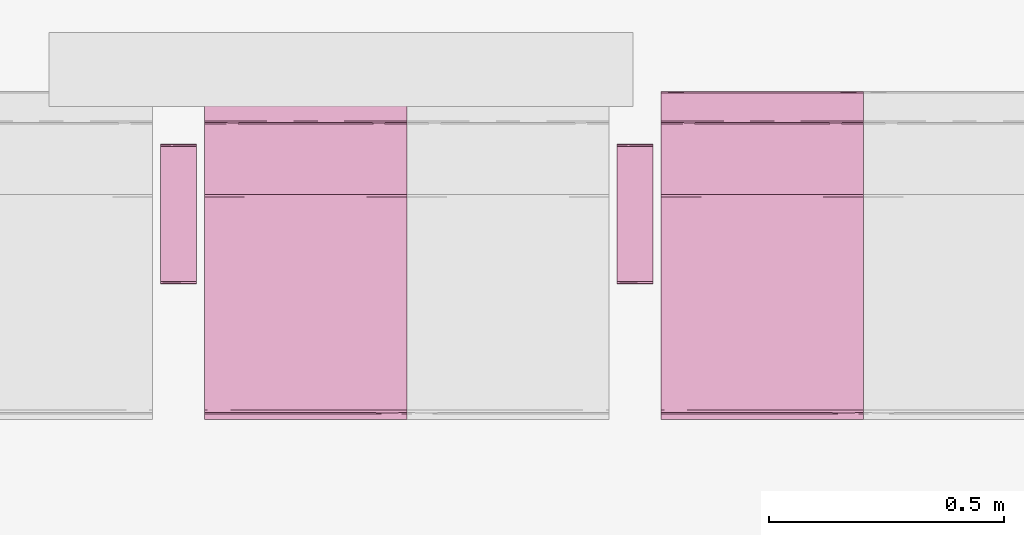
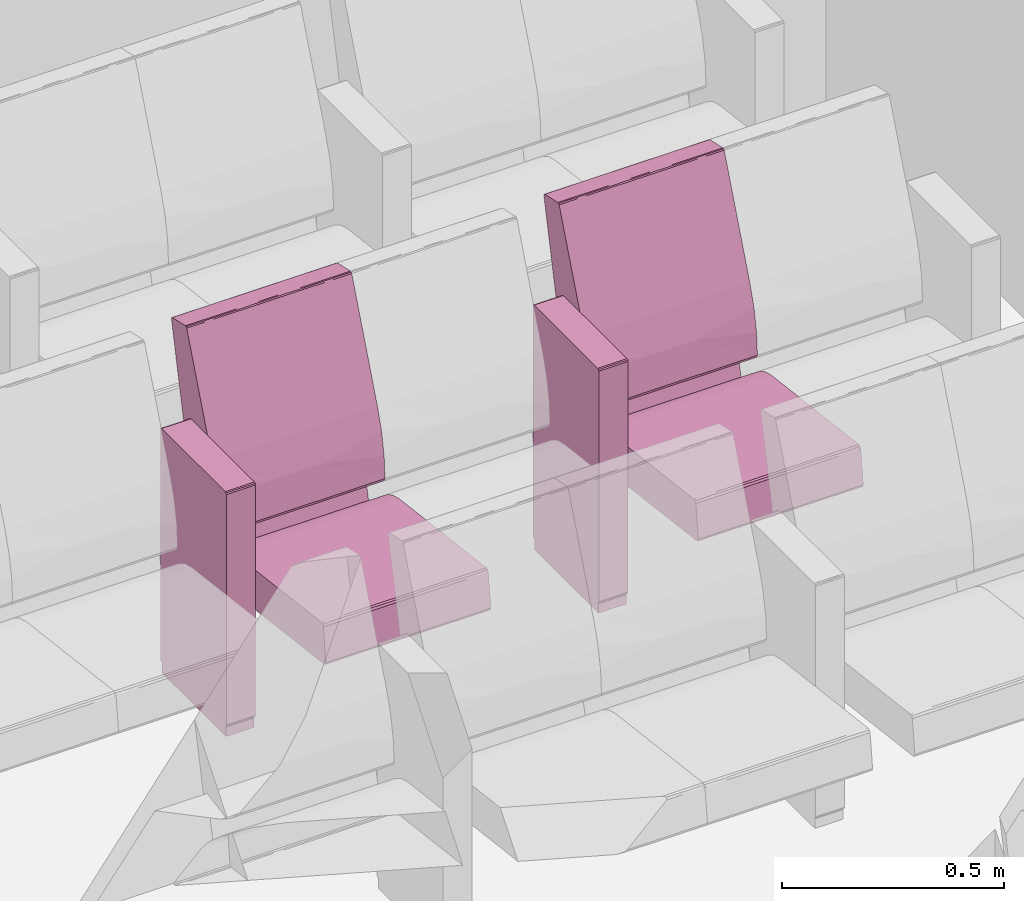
# One storey, part 138 of 155: 2 furnishings.
"""IFC2X3 building model written with IfcOpenShell, lengths in metres."""

import ifcopenshell
import ifcopenshell.guid

model = None  # the IFC model being written
_history = None  # IfcOwnerHistory: only IFC2X3 demands one
_inside = {}  # id of a spatial element -> (the spatial element, [elements in it])
_under = {}  # id of a project, library or spatial element -> (it, [spatial elements below it])
_declared = {}  # id of a project -> (the project, [libraries it declares])
_typed = {}  # id of a type object -> (the type object, [elements of that type])
_made_of = {}  # id of a material, layer set ... -> (it, [elements and type objects made of it])


def new_model(schema):
    """Start an empty IFC model of exactly this schema.

    Asked for "IFC4X3", IfcOpenShell would pick the latest addendum, in which some entities
    have other attributes; the version numbers below select the first issue.
    IFC2X3 requires an IfcOwnerHistory on every rooted entity: one is made here for all.
    """
    global model, _history
    if schema == "IFC4X3":
        model = ifcopenshell.file(schema_version=(4, 3, 0, 0))
    else:
        model = ifcopenshell.file(schema=schema)
    _inside.clear()
    _under.clear()
    _declared.clear()
    _typed.clear()
    _made_of.clear()
    _history = None
    if model.schema == "IFC2X3":
        org = make("IfcOrganization", Name="unknown")
        user = make(
            "IfcPersonAndOrganization",
            ThePerson=make("IfcPerson", FamilyName="unknown"),
            TheOrganization=org,
        )
        app = make(
            "IfcApplication",
            ApplicationDeveloper=org,
            Version="unknown",
            ApplicationFullName="unknown",
            ApplicationIdentifier="unknown",
        )
        _history = make(
            "IfcOwnerHistory",
            OwningUser=user,
            OwningApplication=app,
            ChangeAction="ADDED",
            CreationDate=0,
        )
    return model


def make(cls, **values):
    """One entity of the class cls with the attributes given. An attribute that is None is left unset."""
    return model.create_entity(
        cls, **{name: value for name, value in values.items() if value is not None}
    )


def entity(cls, *values):
    """Any entity or typed value of the class cls, its attributes in the order of the schema. None: left unset."""
    e = model.create_entity(cls)
    for i, value in enumerate(values):
        if value is not None:
            e[i] = value
    return e


def rooted(cls, **values):
    """An entity with a GlobalId (a new one), such as an element, a storey or a relation."""
    return make(cls, GlobalId=ifcopenshell.guid.new(), OwnerHistory=_history, **values)


def si_unit(unit_type, name, prefix=None):
    """IfcSIUnit, for example si_unit("LENGTHUNIT", "METRE", prefix="MILLI")."""
    return make("IfcSIUnit", UnitType=unit_type, Prefix=prefix, Name=name)


def converted_unit(unit_type, name, factor, base, dimensions=None, offset=None):
    """IfcConversionBasedUnit, such as the inch: factor (a typed value) times the base unit."""
    return make(
        "IfcConversionBasedUnit"
        if offset is None
        else "IfcConversionBasedUnitWithOffset",
        ConversionOffset=offset,
        Dimensions=None
        if dimensions is None
        else entity("IfcDimensionalExponents", *dimensions),
        UnitType=unit_type,
        Name=name,
        ConversionFactor=make(
            "IfcMeasureWithUnit", ValueComponent=factor, UnitComponent=base
        ),
    )


def derived_unit(unit_type, elements):
    """IfcDerivedUnit: a product of units, each with its exponent."""
    return make(
        "IfcDerivedUnit",
        Elements=[
            make("IfcDerivedUnitElement", Unit=unit, Exponent=power)
            for unit, power in elements
        ],
        UnitType=unit_type,
    )


def assignment(units):
    """IfcUnitAssignment: the units of a project."""
    return None if units is None else make("IfcUnitAssignment", Units=units)


def point(xyz):
    """IfcCartesianPoint."""
    return None if xyz is None else make("IfcCartesianPoint", Coordinates=xyz)


def direction(xyz):
    """IfcDirection."""
    return None if xyz is None else make("IfcDirection", DirectionRatios=xyz)


def frame(location, z_axis=None, x_axis=None):
    """IfcAxis2Placement3D, a coordinate frame: its origin and axes. An axis left out is left unset."""
    return make(
        "IfcAxis2Placement3D",
        Location=point(location),
        Axis=direction(z_axis),
        RefDirection=direction(x_axis),
    )


def origin():
    """The frame at (0, 0, 0) with its axes left unset."""
    return frame((0.0, 0.0, 0.0))


def place(relative_to, where):
    """IfcLocalPlacement: puts the frame where relative to a parent placement (None: the world)."""
    return make(
        "IfcLocalPlacement", PlacementRelTo=relative_to, RelativePlacement=where
    )


def context(
    kind, dimensions, precision=None, world=None, true_north=None, identifier=None
):
    """IfcGeometricRepresentationContext, for example the 3D "Model" context."""
    return make(
        "IfcGeometricRepresentationContext",
        ContextIdentifier=identifier,
        ContextType=kind,
        CoordinateSpaceDimension=dimensions,
        Precision=precision,
        WorldCoordinateSystem=world,
        TrueNorth=true_north,
    )


def subcontext(parent, identifier, kind, view, scale=None):
    """IfcGeometricRepresentationSubContext, for example "Body" below "Model"."""
    return make(
        "IfcGeometricRepresentationSubContext",
        ContextIdentifier=identifier,
        ContextType=kind,
        ParentContext=parent,
        TargetScale=scale,
        TargetView=view,
    )


def project(units=None, contexts=None):
    """IfcProject with its units and contexts."""
    return rooted(
        "IfcProject",
        Name="project",
        RepresentationContexts=contexts,
        UnitsInContext=assignment(units),
    )


def spatial(cls, under=None, at=None, **own):
    """A site, building, storey or space (cls), placed at a placement, below another one or the project."""
    s = rooted(cls, ObjectPlacement=at, **own)
    if under is not None:
        _under.setdefault(under.id(), (under, []))[1].append(s)
    return s


def faces_of(points, faces, orient=None, outer=None):
    """IfcFace entities. A face is a list of loops; a loop is a list of indices into points, from 0.

    orient and outer hold one flag for each loop. By default every Orientation is true, the
    first loop of a face is its IfcFaceOuterBound and the others are IfcFaceBound.
    """
    made = []
    for i, loops in enumerate(faces):
        bounds = []
        for j, loop in enumerate(loops):
            is_outer = j == 0 if outer is None else outer[i][j]
            bounds.append(
                make(
                    "IfcFaceOuterBound" if is_outer else "IfcFaceBound",
                    Bound=make("IfcPolyLoop", Polygon=[points[k] for k in loop]),
                    Orientation=True if orient is None else orient[i][j],
                )
            )
        made.append(make("IfcFace", Bounds=bounds))
    return made


def faceted_brep(points, faces, orient=None, outer=None, voids=None):
    """IfcFacetedBrep: a solid bounded by flat faces; with voids (closed shells), ...WithVoids."""
    shared = [point(p) for p in points]
    hull = make("IfcClosedShell", CfsFaces=faces_of(shared, faces, orient, outer))
    if voids is None:
        return make("IfcFacetedBrep", Outer=hull)
    return make(
        "IfcFacetedBrepWithVoids",
        Outer=hull,
        Voids=[
            make(cls, CfsFaces=faces_of(shared, fs, o, b)) for cls, fs, o, b in voids
        ],
    )


def shape(context_of_items, identifier, shape_type, items):
    """IfcShapeRepresentation: the items that make up one representation, for example the "Body"."""
    return make(
        "IfcShapeRepresentation",
        ContextOfItems=context_of_items,
        RepresentationIdentifier=identifier,
        RepresentationType=shape_type,
        Items=items,
    )


def source(mapping_origin, context_of_items, identifier, shape_type, items):
    """IfcRepresentationMap: a shape defined once, which mapped items show again and again."""
    return make(
        "IfcRepresentationMap",
        MappingOrigin=mapping_origin,
        MappedRepresentation=shape(context_of_items, identifier, shape_type, items),
    )


def transform(
    local_origin,
    x_axis=None,
    y_axis=None,
    z_axis=None,
    scale=None,
    scale2=None,
    scale3=None,
    uniform=True,
):
    """IfcCartesianTransformationOperator3D, or its non-uniform kind. x_axis, y_axis, z_axis: its Axis1, 2, 3."""
    if uniform:
        return make(
            "IfcCartesianTransformationOperator3D",
            Axis1=direction(x_axis),
            Axis2=direction(y_axis),
            LocalOrigin=point(local_origin),
            Scale=scale,
            Axis3=direction(z_axis),
        )
    return make(
        "IfcCartesianTransformationOperator3DnonUniform",
        Axis1=direction(x_axis),
        Axis2=direction(y_axis),
        LocalOrigin=point(local_origin),
        Scale=scale,
        Axis3=direction(z_axis),
        Scale2=scale2,
        Scale3=scale3,
    )


def mapped(mapping_source, mapping_target):
    """IfcMappedItem: shows the shape of a source again, moved by a transform."""
    return make(
        "IfcMappedItem", MappingSource=mapping_source, MappingTarget=mapping_target
    )


def material(Name=None, Category=None):
    """IfcMaterial."""
    return make("IfcMaterial", Name=Name, Category=Category)


def material_list(materials):
    """IfcMaterialList."""
    return make("IfcMaterialList", Materials=materials)


def made_of(thing, what):
    """Note that an element or type object is made of a material, layer set ...; save() writes the relation."""
    if what is not None:
        _made_of.setdefault(what.id(), (what, []))[1].append(thing)
    return thing


def type_object(cls, material=None, **own):
    """A type object (cls), such as IfcWallType, which elements share."""
    return made_of(rooted(cls, **own), material)


def type_shapes(of_type, sources):
    """Give a type object the sources (RepresentationMaps) that its elements show as mapped items."""
    of_type.RepresentationMaps = sources


def element(
    cls,
    number,
    at=None,
    inside=None,
    cuts=None,
    type_object=None,
    material=None,
    context=None,
    identifier="Body",
    shape_type=None,
    held_by="IfcProductDefinitionShape",
    body=None,
    shapes=None,
    **own,
):
    """One element of the class cls, such as IfcWall. Its Tag is "e" and its number.

    at: its placement. inside: the storey or other place that contains it. cuts: it is an
    opening in that element (IfcRelVoidsElement). A single representation is given by context,
    identifier, shape_type and body (its items); several are given by shapes. held_by: the class
    of the entity that holds the representations. save() writes the other relations.
    """
    e = rooted(cls, Tag="e%d" % number, ObjectPlacement=at, **own)
    if body is not None:
        shapes = [shape(context, identifier, shape_type, body)]
    if shapes is not None:
        e.Representation = make(held_by, Representations=shapes)
    if inside is not None:
        _inside.setdefault(inside.id(), (inside, []))[1].append(e)
    if cuts is not None:
        rooted(
            "IfcRelVoidsElement", RelatingBuildingElement=cuts, RelatedOpeningElement=e
        )
    if type_object is not None:
        _typed.setdefault(type_object.id(), (type_object, []))[1].append(e)
    return made_of(e, material)


def aggregate(whole, parts):
    """IfcRelAggregates: a whole, such as a stair, and the parts it consists of."""
    return rooted("IfcRelAggregates", RelatingObject=whole, RelatedObjects=parts)


def save(model, path):
    """Write the relations noted so far, then the file.

    IfcRelAggregates (storeys below a building ...), IfcRelContainedInSpatialStructure (elements
    in a storey), IfcRelDefinesByType, IfcRelAssociatesMaterial and IfcRelDeclares: one each for
    every whole, place, type object, material and project.
    """
    for whole, parts in _under.values():
        aggregate(whole, parts)
    for where, things in _inside.values():
        rooted(
            "IfcRelContainedInSpatialStructure",
            RelatedElements=things,
            RelatingStructure=where,
        )
    for kind, things in _typed.values():
        rooted("IfcRelDefinesByType", RelatedObjects=things, RelatingType=kind)
    for what, things in _made_of.values():
        rooted("IfcRelAssociatesMaterial", RelatedObjects=things, RelatingMaterial=what)
    for by, libraries in _declared.values():
        rooted("IfcRelDeclares", RelatingContext=by, RelatedDefinitions=libraries)
    model.write(path)


model = new_model("IFC2X3")

# Units and contexts
model_context = context("Model", 3, precision=1e-05, world=origin(), true_north=direction((6.12303176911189e-17, 1.0)))
body_context = subcontext(model_context, "Body", "Model", "MODEL_VIEW")
ifc_project = project(units=[si_unit("LENGTHUNIT", "METRE"), si_unit("AREAUNIT", "SQUARE_METRE"), si_unit("VOLUMEUNIT", "CUBIC_METRE"), converted_unit("PLANEANGLEUNIT", "DEGREE", entity("IfcRatioMeasure", 0.0174532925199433), si_unit("PLANEANGLEUNIT", "RADIAN"), dimensions=[0, 0, 0, 0, 0, 0, 0]), si_unit("MASSUNIT", "GRAM", prefix="KILO"), derived_unit("MASSDENSITYUNIT", [(si_unit("MASSUNIT", "GRAM", prefix="KILO"), 1), (si_unit("LENGTHUNIT", "METRE"), -3)]), si_unit("TIMEUNIT", "SECOND"), si_unit("FREQUENCYUNIT", "HERTZ"), si_unit("THERMODYNAMICTEMPERATUREUNIT", "DEGREE_CELSIUS"), derived_unit("THERMALTRANSMITTANCEUNIT", [(si_unit("MASSUNIT", "GRAM", prefix="KILO"), 1), (si_unit("THERMODYNAMICTEMPERATUREUNIT", "KELVIN"), -1), (si_unit("TIMEUNIT", "SECOND"), -3)]), derived_unit("VOLUMETRICFLOWRATEUNIT", [(si_unit("LENGTHUNIT", "METRE"), 3), (si_unit("TIMEUNIT", "SECOND"), -1)]), si_unit("ELECTRICCURRENTUNIT", "AMPERE"), si_unit("ELECTRICVOLTAGEUNIT", "VOLT"), si_unit("POWERUNIT", "WATT"), si_unit("FORCEUNIT", "NEWTON", prefix="KILO"), si_unit("ILLUMINANCEUNIT", "LUX"), si_unit("LUMINOUSFLUXUNIT", "LUMEN"), si_unit("LUMINOUSINTENSITYUNIT", "CANDELA"), derived_unit("USERDEFINED", [(si_unit("MASSUNIT", "GRAM", prefix="KILO"), -1), (si_unit("LENGTHUNIT", "METRE"), -2), (si_unit("TIMEUNIT", "SECOND"), 3), (si_unit("LUMINOUSFLUXUNIT", "LUMEN"), 1)]), derived_unit("LINEARVELOCITYUNIT", [(si_unit("LENGTHUNIT", "METRE"), 1), (si_unit("TIMEUNIT", "SECOND"), -1)]), si_unit("PRESSUREUNIT", "PASCAL"), derived_unit("USERDEFINED", [(si_unit("LENGTHUNIT", "METRE"), -2), (si_unit("MASSUNIT", "GRAM", prefix="KILO"), 1), (si_unit("TIMEUNIT", "SECOND"), -2)])], contexts=[model_context])

# Site, building, storey, space
site_placement = place(None, frame((26.9889013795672, -17.5624287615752, 0.0)))
site = spatial("IfcSite", under=ifc_project, at=site_placement, Name="Default", CompositionType="ELEMENT")
building_placement = place(site_placement, origin())
building = spatial("IfcBuilding", under=site, at=building_placement, Name="C. C. L. Monsenhor Antônio Sampaio", CompositionType="ELEMENT")
storey_placement = place(building_placement, frame((0.0, 0.0, 1.19999999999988)))
storey = spatial("IfcBuildingStorey", under=building, at=storey_placement, Name="Nível 1.2", CompositionType="ELEMENT", Elevation=1.19999999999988)
space_placement = place(storey_placement, origin())
space = spatial("IfcSpace", under=storey, at=space_placement, Name="94", CompositionType="ELEMENT", InteriorOrExteriorSpace="INTERNAL")

# Furnishings
ifc_material_1 = material(Name="V9 - V9 - Ecopelle_672_658")
ifc_material_2 = material(Name="V9 - V9 - RAL_9006_Grigio")
ifc_material_list_1 = material_list([ifc_material_1, ifc_material_2])
ifc_material_list_2 = material_list([ifc_material_1, ifc_material_2])
furniture_type = type_object("IfcFurnitureType", Name="Cadeira auditório", material=ifc_material_list_2)
shared_shape = source(origin(), body_context, "Body", "Brep", [
    faceted_brep([(0.405536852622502, 0.156348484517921, 0.339809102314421), (0.410560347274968, 0.131924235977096, 0.34246450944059), (0.405536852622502, 0.1075, 0.339809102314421), (0.405536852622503, 0.0537499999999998, 0.339809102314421), (0.410597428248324, 0.084060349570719, 0.342506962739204), (0.41079981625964, 0.0179166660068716, 0.342749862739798), (0.405536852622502, 0.215, 0.339809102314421), (0.410248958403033, 0.173608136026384, 0.342130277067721), (0.412515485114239, 0.185674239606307, 0.348529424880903), (0.412515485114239, 0.143333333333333, 0.348529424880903), (0.410560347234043, -0.131924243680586, 0.342464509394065), (0.405536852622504, -0.156348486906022, 0.33980910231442), (0.405536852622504, -0.1075, 0.33980910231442), (0.405536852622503, 0.0, 0.33980910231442), (0.41251548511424, 0.0, 0.348529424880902), (0.411170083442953, -0.0341365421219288, 0.343251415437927), (0.41059742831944, -0.0840603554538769, 0.342506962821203), (0.41251548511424, -0.143333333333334, 0.348529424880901), (0.412515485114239, 0.0358333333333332, 0.348529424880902), (0.412515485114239, 0.0716666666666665, 0.348529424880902), (0.405536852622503, -0.0537500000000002, 0.33980910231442), (0.412515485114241, -0.185674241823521, 0.348529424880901), (0.410799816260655, -0.215, 0.342749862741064), (0.410248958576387, -0.173608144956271, 0.342130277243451), (0.410799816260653, 0.215, 0.342749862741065), (0.412515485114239, 0.215, 0.348529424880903), (0.412515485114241, -0.215, 0.348529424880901), (0.41251548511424, -0.0716666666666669, 0.348529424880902), (0.405536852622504, -0.215, 0.33980910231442), (-0.0557900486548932, -0.215, 0.28268145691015), (-0.055790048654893, -0.168631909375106, 0.282681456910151), (-0.0557900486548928, -0.138065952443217, 0.282681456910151), (-0.0557900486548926, -0.107499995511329, 0.282681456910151), (-0.0557900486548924, -0.0806249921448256, 0.282681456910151), (-0.0557900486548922, -0.0537499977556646, 0.282681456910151), (-0.0557900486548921, -0.0268750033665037, 0.282681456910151), (-0.0557900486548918, 0.0, 0.28268145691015), (-0.0557900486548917, 0.0268749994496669, 0.282681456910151), (-0.0557900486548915, 0.0537499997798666, 0.282681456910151), (-0.0557900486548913, 0.0806250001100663, 0.282681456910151), (-0.0557900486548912, 0.107499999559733, 0.282681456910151), (-0.055790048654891, 0.134374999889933, 0.282681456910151), (-0.0557900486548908, 0.161250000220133, 0.282681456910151), (-0.0557900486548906, 0.1881249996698, 0.282681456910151), (-0.0557900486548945, 0.215, 0.28268145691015), (-0.0594787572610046, -0.0152829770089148, 0.283700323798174), (-0.0613666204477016, 0.0, 0.287029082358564), (-0.0594787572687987, 0.0179017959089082, 0.283700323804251), (-0.0613666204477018, 0.191815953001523, 0.287029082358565), (-0.0613666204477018, 0.215, 0.287029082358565), (-0.0594787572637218, 0.215, 0.283700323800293), (-0.0593340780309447, 0.0671874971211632, 0.283591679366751), (-0.0613666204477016, 0.030565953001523, 0.287029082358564), (-0.0594787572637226, -0.215, 0.283700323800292), (-0.0593337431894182, -0.184174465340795, 0.283591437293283), (-0.0613666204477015, -0.122263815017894, 0.287029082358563), (-0.0613666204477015, -0.0916978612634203, 0.287029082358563), (-0.0613666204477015, -0.0611319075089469, 0.287029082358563), (-0.0593023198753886, -0.0940625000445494, 0.283568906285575), (-0.059382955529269, 0.118123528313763, 0.28362747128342), (-0.0613666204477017, 0.122263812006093, 0.287029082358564), (-0.0597338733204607, 0.147039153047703, 0.283913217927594), (-0.0613666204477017, 0.168631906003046, 0.287029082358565), (-0.0592501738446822, 0.180223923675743, 0.283532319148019), (-0.0588783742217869, 0.0926899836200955, 0.283298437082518), (-0.0613666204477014, -0.215, 0.287029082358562), (-0.0613666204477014, -0.168631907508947, 0.287029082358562), (-0.0592576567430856, -0.123736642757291, 0.283537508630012), (-0.0594787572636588, -0.153348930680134, 0.283700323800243), (-0.0613666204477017, 0.0916978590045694, 0.287029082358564), (-0.0613666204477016, -0.0305659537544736, 0.287029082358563), (-0.059645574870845, -0.045848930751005, 0.283836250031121), (-0.0613666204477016, 0.0611319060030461, 0.287029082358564), (-0.069340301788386, -0.215, 0.351419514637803), (-0.0693403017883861, -0.143333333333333, 0.351419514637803), (-0.0693403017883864, -0.0716666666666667, 0.351419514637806), (-0.0693403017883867, 0.0, 0.351419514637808), (-0.069340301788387, 0.0716666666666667, 0.351419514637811), (-0.0693403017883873, 0.143333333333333, 0.351419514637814), (-0.0693403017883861, 0.215, 0.351419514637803), (-0.0597085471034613, 0.0, 0.37476954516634), (-0.0645543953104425, 0.112272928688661, 0.369803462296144), (-0.0653387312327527, 0.0126787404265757, 0.368680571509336), (-0.0681665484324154, -0.0888707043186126, 0.36292533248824), (-0.0655136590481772, -0.10440004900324, 0.368411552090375), (-0.0694879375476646, 0.0590582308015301, 0.356377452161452), (-0.0695056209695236, -0.125492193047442, 0.356093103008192), (-0.0597085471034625, -0.110316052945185, 0.374769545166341), (-0.0690003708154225, 0.132942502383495, 0.359900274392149), (-0.0672851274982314, 0.108066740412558, 0.365148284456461), (-0.0676206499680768, 0.215, 0.364371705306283), (-0.0686241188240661, 0.215, 0.356813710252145), (-0.0686241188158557, -0.214999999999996, 0.356813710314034), (-0.0686999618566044, 0.0358333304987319, 0.36116674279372), (-0.0694502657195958, -0.0358333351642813, 0.356863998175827), (-0.0676206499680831, -0.214999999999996, 0.364371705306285), (-0.0636645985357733, -0.214999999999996, 0.369570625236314), (-0.0597085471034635, -0.214999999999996, 0.374769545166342), (-0.0597085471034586, 0.215, 0.374769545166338), (-0.0636645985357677, 0.215, 0.36957062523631), (-0.0597085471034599, 0.110316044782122, 0.374769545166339), (-0.0324117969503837, 0.215, 0.390639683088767), (-0.0324117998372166, 0.0436847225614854, 0.39063968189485), (-0.0018793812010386, 0.215, 0.398686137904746), (-0.041847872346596, -0.0856576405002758, 0.386239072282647), (-0.0324117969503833, -0.215, 0.390639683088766), (-0.00187938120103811, -0.215, 0.398686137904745), (-0.00187938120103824, -0.102488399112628, 0.398686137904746), (-0.0219042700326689, -0.0570631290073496, 0.394412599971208), (-0.00187938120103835, 0.0, 0.398686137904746), (0.392202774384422, 0.215, 0.447486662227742), (0.392202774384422, -0.215, 0.447486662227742), (0.392202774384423, -0.156349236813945, 0.447486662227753), (0.392202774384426, -0.107499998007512, 0.447486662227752), (0.392202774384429, -0.0537500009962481, 0.44748666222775), (0.392202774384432, 0.0, 0.447486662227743), (0.392202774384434, 0.0537499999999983, 0.447486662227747), (0.392202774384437, 0.107499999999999, 0.447486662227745), (0.392202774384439, 0.156349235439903, 0.447486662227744), (0.398104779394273, -0.131924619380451, 0.445856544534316), (0.401125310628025, -0.0976984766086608, 0.440530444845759), (0.397860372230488, -0.0827732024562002, 0.446039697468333), (0.401125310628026, -0.215000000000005, 0.440530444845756), (0.401125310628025, -0.156349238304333, 0.440530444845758), (0.397373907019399, -0.173462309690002, 0.446363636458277), (0.398104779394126, -0.215000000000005, 0.445856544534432), (0.397860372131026, 0.0827731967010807, 0.446039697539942), (0.398104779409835, 0.131924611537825, 0.445856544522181), (0.398104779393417, -0.0237489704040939, 0.445856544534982), (0.398104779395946, 0.0268749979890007, 0.445856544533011), (0.401125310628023, 0.0488492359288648, 0.440530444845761), (0.401125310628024, -0.0488492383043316, 0.440530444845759), (0.398774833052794, 0.173462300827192, 0.445271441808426), (0.401125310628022, 0.097698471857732, 0.440530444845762), (0.401125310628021, 0.215, 0.440530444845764), (0.39810477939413, 0.215, 0.445856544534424), (0.401125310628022, 0.156349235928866, 0.440530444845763), (0.401125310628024, 0.0, 0.44053044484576)], [[[0, 1, 2]], [[3, 4, 5]], [[6, 7, 0]], [[7, 8, 9]], [[10, 11, 12]], [[3, 5, 13]], [[14, 15, 5]], [[16, 17, 10]], [[9, 1, 7]], [[18, 5, 4]], [[4, 9, 19, 18]], [[9, 4, 1]], [[2, 1, 4]], [[13, 15, 20]], [[21, 22, 23]], [[5, 18, 14]], [[24, 25, 8]], [[22, 21, 26]], [[24, 7, 6]], [[23, 11, 10]], [[20, 15, 16]], [[3, 2, 4]], [[14, 27, 15]], [[5, 15, 13]], [[27, 17, 16]], [[10, 12, 16]], [[21, 23, 17]], [[20, 16, 12]], [[15, 27, 16]], [[7, 1, 0]], [[28, 11, 23]], [[8, 7, 24]], [[23, 10, 17]], [[28, 23, 22]], [[28, 29, 30, 31, 32, 33, 34, 35, 36, 37, 38, 39, 40, 41, 42, 43, 44, 6, 0, 2, 3, 13, 20, 12, 11]], [[45, 46, 47]], [[48, 49, 50]], [[51, 47, 52]], [[29, 53, 54]], [[55, 56, 57, 58]], [[59, 60, 61]], [[61, 62, 63]], [[51, 64, 39]], [[65, 66, 54]], [[31, 67, 32]], [[45, 47, 38, 37, 36, 35]], [[68, 31, 30]], [[43, 50, 44]], [[63, 42, 61]], [[48, 50, 63]], [[64, 69, 59]], [[68, 54, 66]], [[63, 62, 48]], [[50, 43, 63]], [[67, 55, 58]], [[61, 42, 41]], [[45, 70, 46]], [[55, 68, 66]], [[71, 33, 58]], [[71, 57, 70]], [[41, 40, 59]], [[60, 62, 61]], [[71, 35, 34, 33]], [[35, 71, 45]], [[47, 46, 52]], [[45, 71, 70]], [[58, 57, 71]], [[32, 58, 33]], [[31, 68, 67]], [[54, 68, 30]], [[29, 54, 30]], [[54, 53, 65]], [[55, 67, 68]], [[32, 67, 58]], [[51, 52, 72, 69]], [[43, 42, 63]], [[41, 59, 61]], [[47, 51, 38]], [[40, 39, 64]], [[38, 51, 39]], [[69, 60, 59]], [[69, 64, 51]], [[40, 64, 59]], [[65, 73, 74, 75, 76, 77, 78, 79, 49, 48, 62, 60, 69, 72, 52, 46, 70, 57, 56, 55, 66]], [[80, 81, 82]], [[82, 83, 84]], [[78, 77, 76, 85]], [[86, 75, 74]], [[84, 80, 82]], [[80, 84, 87]], [[88, 89, 90]], [[91, 79, 78]], [[74, 73, 92]], [[85, 88, 91]], [[81, 89, 82]], [[93, 94, 83]], [[94, 86, 83]], [[85, 76, 94]], [[92, 86, 74]], [[85, 94, 93]], [[83, 92, 95]], [[75, 94, 76]], [[93, 83, 82]], [[95, 96, 84]], [[88, 85, 93]], [[96, 97, 87]], [[98, 99, 100]], [[78, 85, 91]], [[89, 88, 93]], [[90, 91, 88]], [[93, 82, 89]], [[81, 99, 89]], [[99, 90, 89]], [[100, 81, 80]], [[100, 99, 81]], [[83, 86, 92]], [[75, 86, 94]], [[95, 84, 83]], [[87, 84, 96]], [[101, 102, 103]], [[104, 80, 87, 97]], [[105, 106, 107]], [[107, 108, 105]], [[103, 102, 109]], [[104, 102, 80]], [[104, 108, 102]], [[98, 102, 101]], [[105, 104, 97]], [[105, 108, 104]], [[102, 98, 100, 80]], [[109, 108, 107]], [[109, 102, 108]], [[110, 103, 109, 107, 106, 111, 112, 113, 114, 115, 116, 117, 118]], [[119, 120, 121]], [[122, 123, 124]], [[111, 125, 124]], [[117, 116, 126]], [[124, 119, 112]], [[113, 112, 119]], [[127, 118, 117]], [[115, 114, 128, 129, 116]], [[129, 130, 126]], [[121, 131, 128]], [[127, 132, 118]], [[110, 118, 132]], [[127, 126, 133]], [[119, 124, 123]], [[134, 135, 132]], [[136, 132, 127]], [[120, 119, 123]], [[133, 136, 127]], [[137, 130, 129, 128, 131]], [[126, 127, 117]], [[130, 133, 126]], [[113, 119, 121]], [[129, 126, 116]], [[128, 114, 121]], [[114, 113, 121]], [[131, 121, 120]], [[111, 124, 112]], [[124, 125, 122]], [[134, 132, 136]], [[132, 135, 110]], [[19, 9, 8, 25, 134, 136, 133, 130, 137, 131, 120, 123, 122, 26, 21, 17, 27, 14, 18]], [[65, 53, 29, 28, 22, 26, 122, 125, 111, 106, 105, 97, 96, 95, 92, 73]], [[98, 101, 103, 110, 135, 134, 25, 24, 6, 44, 50, 49, 79, 91, 90, 99]]]),
    faceted_brep([(0.123144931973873, -0.283972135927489, 0.673627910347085), (0.12334838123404, -0.259944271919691, 0.6734355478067), (0.119812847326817, -0.27, 0.674900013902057), (0.124812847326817, -0.27, 0.669900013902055), (0.12334838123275, -0.232, 0.673435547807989), (0.119812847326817, -0.232, 0.674900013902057), (0.124812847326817, -0.308, 0.669900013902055), (0.119812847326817, -0.308, 0.674900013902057), (0.124812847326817, -0.249888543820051, 0.669900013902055), (0.124812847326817, -0.232, 0.669900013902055), (0.12334838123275, -0.308, 0.673435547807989), (0.124812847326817, -0.27, 0.035), (0.124812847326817, -0.232, 0.035), (0.124812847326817, -0.308, 0.0350000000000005), (0.123540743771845, -0.283972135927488, 0.0316679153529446), (0.12334838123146, -0.25994427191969, 0.0314644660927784), (0.119812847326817, -0.27, 0.0300000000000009), (0.12334838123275, -0.232, 0.0314644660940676), (0.119812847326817, -0.308, 0.0300000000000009), (0.119812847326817, -0.249888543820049, 0.030000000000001), (0.119812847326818, -0.232, 0.030000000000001), (0.123348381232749, -0.308, 0.0314644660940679), (-0.167179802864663, -0.308, 0.0300000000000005), (-0.167179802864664, -0.27, 0.0300000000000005), (-0.167179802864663, -0.232, 0.0300000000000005), (-0.17051188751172, -0.283972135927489, 0.0312721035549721), (-0.170715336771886, -0.25994427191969, 0.0314644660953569), (-0.172179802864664, -0.27, 0.0350000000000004), (-0.170715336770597, -0.232, 0.0314644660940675), (-0.172179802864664, -0.308, 0.0350000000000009), (-0.172179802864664, -0.24988854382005, 0.0350000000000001), (-0.172179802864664, -0.232, 0.0349999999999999), (-0.170715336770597, -0.308, 0.0314644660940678), (-0.172179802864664, -0.308, 0.669900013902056), (-0.172179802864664, -0.27, 0.669900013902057), (-0.172179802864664, -0.232, 0.669900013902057), (-0.170907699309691, -0.283972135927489, 0.673232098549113), (-0.170715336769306, -0.259944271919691, 0.673435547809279), (-0.167179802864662, -0.27, 0.674900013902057), (-0.170715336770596, -0.232, 0.67343554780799), (-0.167179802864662, -0.308, 0.674900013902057), (-0.167179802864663, -0.249888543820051, 0.674900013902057), (-0.167179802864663, -0.232, 0.674900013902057), (-0.170715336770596, -0.308, 0.67343554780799)], [[[0, 1, 2]], [[1, 0, 3]], [[1, 4, 5, 2]], [[6, 3, 0]], [[7, 0, 2]], [[4, 1, 3, 8, 9]], [[10, 0, 7]], [[0, 10, 6]], [[11, 12, 9, 8, 3, 6, 13]], [[14, 15, 11]], [[15, 14, 16]], [[15, 17, 12, 11]], [[18, 16, 14]], [[13, 14, 11]], [[17, 15, 16, 19, 20]], [[21, 14, 13]], [[14, 21, 18]], [[18, 22, 23, 24, 20, 19, 16]], [[25, 26, 23]], [[26, 25, 27]], [[26, 28, 24, 23]], [[29, 27, 25]], [[22, 25, 23]], [[28, 26, 27, 30, 31]], [[32, 25, 22]], [[25, 32, 29]], [[27, 29, 33, 34, 35, 31, 30]], [[36, 37, 34]], [[37, 36, 38]], [[37, 39, 35, 34]], [[40, 38, 36]], [[33, 36, 34]], [[39, 37, 38, 41, 42]], [[43, 36, 33]], [[36, 43, 40]], [[40, 7, 2, 5, 42, 41, 38]], [[35, 39, 42, 5, 4, 9, 12, 17, 20, 24, 28, 31]], [[29, 32, 22, 18, 21, 13, 6, 10, 7, 40, 43, 33]]]),
    faceted_brep([(-0.0695672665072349, 0.215, 0.476508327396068), (-0.074405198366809, 0.0524423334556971, 0.506888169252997), (-0.0655618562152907, 0.215, 0.415143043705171), (-0.0744051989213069, -0.0780075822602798, 0.506888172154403), (-0.0655618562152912, 0.0, 0.415143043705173), (-0.0655618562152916, -0.215, 0.415143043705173), (-0.0655618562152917, -0.1075, 0.415143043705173), (-0.0655618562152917, 0.1075, 0.415143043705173), (-0.0695672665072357, -0.215, 0.476508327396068), (-0.081111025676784, -0.215, 0.536911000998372), (-0.0811110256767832, 0.215, 0.536911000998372), (-0.100016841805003, 0.215, 0.595428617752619), (-0.100016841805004, 0.0, 0.595428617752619), (-0.100016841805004, -0.215, 0.595428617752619), (-0.0698317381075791, 0.0358333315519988, 0.406528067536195), (-0.0792851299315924, 0.0, 0.404772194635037), (-0.0792851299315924, 0.0716666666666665, 0.404772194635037), (-0.0792851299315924, -0.215, 0.404772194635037), (-0.0792851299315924, -0.143333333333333, 0.404772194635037), (-0.0698317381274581, -0.215, 0.406528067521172), (-0.0792851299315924, 0.143333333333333, 0.404772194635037), (-0.0792851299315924, 0.215, 0.404772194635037), (-0.0698317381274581, 0.215, 0.406528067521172), (-0.0694171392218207, 0.140338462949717, 0.406857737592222), (-0.0708115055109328, -0.0356393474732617, 0.405868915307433), (-0.0703502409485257, -0.107500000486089, 0.406159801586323), (-0.0792851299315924, -0.0716666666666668, 0.404772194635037), (-0.163837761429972, -0.215, 0.420611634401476), (-0.163837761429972, 0.215, 0.420611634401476), (-0.123612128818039, 0.215, 0.235917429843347), (-0.123612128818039, -0.215, 0.235917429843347), (-0.142059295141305, -0.215, 0.231899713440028), (-0.142059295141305, 0.215, 0.231899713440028), (-0.235388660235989, -0.215, 0.652619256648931), (-0.235388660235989, 0.215, 0.652619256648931), (-0.28428001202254, -0.215, 0.873004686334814), (-0.284280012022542, -0.191295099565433, 0.873004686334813), (-0.284280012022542, -0.161249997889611, 0.873004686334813), (-0.284280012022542, -0.134374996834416, 0.873004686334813), (-0.284280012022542, -0.107499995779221, 0.873004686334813), (-0.284280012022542, -0.0806249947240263, 0.873004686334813), (-0.284280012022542, -0.0537499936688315, 0.873004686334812), (-0.284280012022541, -0.0268749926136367, 0.873004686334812), (-0.28428001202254, 0.0, 0.873004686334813), (-0.284280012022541, 0.0268749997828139, 0.873004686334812), (-0.284280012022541, 0.0537500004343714, 0.873004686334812), (-0.284280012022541, 0.0806250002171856, 0.873004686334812), (-0.284280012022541, 0.1075, 0.873004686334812), (-0.284280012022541, 0.134374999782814, 0.873004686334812), (-0.28428001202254, 0.161249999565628, 0.873004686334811), (-0.28428001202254, 0.191295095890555, 0.873004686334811), (-0.28428001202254, 0.215, 0.873004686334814), (-0.283746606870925, 0.0872244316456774, 0.876674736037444), (-0.283504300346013, 0.0569644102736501, 0.877068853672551), (-0.283567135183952, -0.15546176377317, 0.876973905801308), (-0.283641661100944, -0.12093750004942, 0.87685511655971), (-0.283567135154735, 0.155461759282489, 0.876973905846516), (-0.28330409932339, 0.185293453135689, 0.877344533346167), (-0.283641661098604, 0.0179166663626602, 0.876855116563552), (-0.283641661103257, -0.0136463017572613, 0.876855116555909), (-0.280514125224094, -0.0358333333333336, 0.879190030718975), (-0.280514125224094, 0.0, 0.879190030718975), (-0.280514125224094, 0.0358333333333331, 0.879190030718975), (-0.280514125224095, -0.143333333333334, 0.879190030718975), (-0.280514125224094, -0.1075, 0.879190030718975), (-0.280514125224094, -0.071666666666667, 0.879190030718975), (-0.283746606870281, -0.0872244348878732, 0.876674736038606), (-0.280514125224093, 0.0716666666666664, 0.879190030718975), (-0.280514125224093, 0.1075, 0.879190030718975), (-0.283641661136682, 0.120937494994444, 0.876855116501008), (-0.280514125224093, 0.143333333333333, 0.879190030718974), (-0.283641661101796, 0.215, 0.876855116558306), (-0.283641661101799, -0.215, 0.876855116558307), (-0.283304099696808, -0.18529345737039, 0.877344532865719), (-0.280514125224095, -0.167590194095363, 0.879190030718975), (-0.280514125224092, 0.215, 0.879190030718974), (-0.280514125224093, 0.167590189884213, 0.879190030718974), (-0.280514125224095, -0.215, 0.879190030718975), (-0.283504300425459, -0.0569644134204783, 0.8770688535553), (-0.22111253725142, 0.215, 0.892176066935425), (-0.22111253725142, -0.215, 0.892176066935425), (-0.221112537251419, -0.191815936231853, 0.892176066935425), (-0.221112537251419, -0.161250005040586, 0.892176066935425), (-0.221112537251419, -0.134375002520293, 0.892176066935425), (-0.221112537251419, -0.1075, 0.892176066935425), (-0.221112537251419, -0.080624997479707, 0.892176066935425), (-0.221112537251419, -0.0537499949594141, 0.892176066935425), (-0.221112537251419, -0.0268750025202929, 0.892176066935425), (-0.221112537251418, 0.0, 0.892176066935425), (-0.221112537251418, 0.0268750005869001, 0.892176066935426), (-0.221112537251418, 0.05375000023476, 0.892176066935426), (-0.221112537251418, 0.0806249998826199, 0.892176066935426), (-0.221112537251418, 0.10749999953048, 0.892176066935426), (-0.221112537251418, 0.13437499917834, 0.892176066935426), (-0.221112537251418, 0.16124999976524, 0.892176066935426), (-0.221112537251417, 0.19181594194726, 0.892176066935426), (-0.215419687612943, 0.0, 0.889191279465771), (-0.215419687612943, 0.0358333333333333, 0.889191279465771), (-0.217722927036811, 0.0162353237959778, 0.891719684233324), (-0.217722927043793, -0.0134375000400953, 0.891719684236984), (-0.215419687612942, -0.191815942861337, 0.889191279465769), (-0.215419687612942, -0.168631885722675, 0.889191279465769), (-0.217722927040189, -0.182482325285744, 0.891719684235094), (-0.217722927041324, -0.215, 0.891719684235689), (-0.215419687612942, -0.215, 0.889191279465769), (-0.215419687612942, -0.1075, 0.88919127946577), (-0.215419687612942, -0.0716666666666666, 0.88919127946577), (-0.217722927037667, -0.0912646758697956, 0.891719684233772), (-0.217722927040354, -0.120937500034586, 0.89171968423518), (-0.215419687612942, -0.143333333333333, 0.88919127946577), (-0.215419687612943, 0.191815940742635, 0.889191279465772), (-0.215419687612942, 0.215, 0.889191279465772), (-0.217722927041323, 0.215, 0.89171968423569), (-0.217722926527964, 0.190103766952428, 0.891719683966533), (-0.217722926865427, 0.0912646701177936, 0.891719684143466), (-0.217816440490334, 0.0647800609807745, 0.891767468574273), (-0.215419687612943, 0.0716666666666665, 0.889191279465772), (-0.217816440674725, -0.0647800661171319, 0.891767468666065), (-0.2179983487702, -0.0390825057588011, 0.891853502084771), (-0.217558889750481, -0.155982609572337, 0.891629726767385), (-0.217722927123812, 0.120937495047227, 0.891719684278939), (-0.215419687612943, 0.16863188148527, 0.889191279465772), (-0.215419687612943, 0.143333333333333, 0.889191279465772), (-0.217558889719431, 0.15598260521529, 0.891629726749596), (-0.215419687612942, -0.0358333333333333, 0.889191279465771), (-0.215419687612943, 0.1075, 0.889191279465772), (-0.218257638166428, 0.0404491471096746, 0.891961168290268)], [[[0, 1, 2]], [[1, 3, 4]], [[3, 5, 6, 4]], [[1, 4, 7, 2]], [[5, 3, 8]], [[8, 3, 9]], [[0, 10, 1]], [[11, 12, 1]], [[3, 13, 9]], [[3, 12, 13]], [[11, 1, 10]], [[3, 1, 12]], [[14, 15, 16]], [[17, 18, 19]], [[20, 21, 22]], [[2, 23, 22]], [[14, 7, 4]], [[14, 24, 15]], [[6, 25, 24]], [[22, 23, 20]], [[14, 23, 7]], [[19, 6, 5]], [[4, 24, 14]], [[16, 23, 14]], [[16, 20, 23]], [[26, 25, 18]], [[25, 19, 18]], [[15, 24, 26]], [[23, 2, 7]], [[19, 25, 6]], [[26, 24, 25]], [[6, 24, 4]], [[15, 26, 18, 17, 27, 28, 21, 20, 16]], [[29, 28, 27, 30]], [[30, 31, 32, 29]], [[32, 31, 33, 34]], [[34, 33, 35, 36, 37, 38, 39, 40, 41, 42, 43, 44, 45, 46, 47, 48, 49, 50, 51]], [[52, 46, 53]], [[38, 54, 55]], [[56, 57, 49]], [[58, 59, 60, 61, 62]], [[63, 64, 55]], [[64, 65, 66]], [[52, 67, 68]], [[69, 70, 56]], [[49, 57, 50]], [[38, 55, 39]], [[71, 51, 50]], [[36, 35, 72]], [[59, 58, 44, 43, 42]], [[73, 74, 54]], [[55, 66, 39]], [[75, 57, 76]], [[77, 74, 73]], [[69, 52, 68]], [[37, 36, 73]], [[54, 74, 63]], [[56, 76, 57]], [[36, 72, 73]], [[75, 71, 57]], [[70, 76, 56]], [[52, 69, 47]], [[48, 47, 69]], [[42, 78, 59]], [[66, 55, 64]], [[50, 57, 71]], [[73, 54, 37]], [[77, 73, 72]], [[48, 69, 56]], [[56, 49, 48]], [[69, 68, 70]], [[53, 46, 45, 44]], [[58, 62, 53]], [[53, 44, 58]], [[38, 37, 54]], [[63, 55, 54]], [[78, 66, 65]], [[78, 40, 66]], [[67, 52, 53]], [[78, 42, 41, 40]], [[65, 60, 78]], [[59, 78, 60]], [[52, 47, 46]], [[40, 39, 66]], [[62, 67, 53]], [[79, 75, 76, 70, 68, 67, 62, 61, 60, 65, 64, 63, 74, 77, 80, 81, 82, 83, 84, 85, 86, 87, 88, 89, 90, 91, 92, 93, 94, 95]], [[96, 97, 98, 99]], [[100, 101, 102, 103, 104]], [[105, 106, 107, 108, 109]], [[110, 111, 112]], [[113, 112, 95]], [[114, 115, 116]], [[117, 118, 86]], [[82, 119, 83]], [[102, 82, 81, 80, 103]], [[112, 79, 95]], [[108, 107, 85, 84, 83]], [[88, 87, 99, 98, 89]], [[119, 101, 109]], [[93, 92, 120]], [[117, 85, 107]], [[113, 121, 110]], [[122, 121, 123]], [[113, 94, 123]], [[124, 99, 118]], [[122, 123, 120]], [[108, 119, 109]], [[113, 110, 112]], [[102, 101, 119]], [[119, 108, 83]], [[114, 125, 120]], [[123, 94, 93]], [[93, 120, 123]], [[114, 120, 92]], [[122, 120, 125]], [[117, 107, 106]], [[114, 92, 91]], [[116, 125, 114]], [[115, 91, 90]], [[85, 117, 86]], [[126, 89, 98]], [[117, 106, 124]], [[118, 99, 87]], [[124, 96, 99]], [[97, 116, 115]], [[97, 115, 126]], [[86, 118, 87]], [[124, 118, 117]], [[91, 115, 114]], [[115, 90, 126]], [[89, 126, 90]], [[97, 126, 98]], [[82, 102, 119]], [[94, 113, 95]], [[121, 113, 123]], [[11, 111, 110, 121, 122, 125, 116, 97, 96, 124, 106, 105, 109, 101, 100, 104, 13, 12]], [[27, 17, 19, 5, 8, 9, 13, 104, 103, 80, 77, 72, 35, 33, 31, 30]], [[51, 71, 75, 79, 112, 111, 11, 10, 0, 2, 22, 21, 28, 29, 32, 34]]]),
    faceted_brep([(0.120312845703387, -0.2335, 0.0), (0.120312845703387, -0.2335, 0.0260000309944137), (0.120312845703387, -0.249500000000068, 0.0260000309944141), (0.120312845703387, -0.27, 0.0260000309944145), (0.120312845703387, -0.3065, 0.0260000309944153), (0.120312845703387, -0.3065, 0.0), (-0.167687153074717, -0.3065, 0.0), (-0.167687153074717, -0.2335, 0.0), (-0.167687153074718, -0.27, 0.0260000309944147), (-0.167687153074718, -0.2335, 0.0260000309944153), (-0.167687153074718, -0.3065, 0.0260000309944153), (-0.166521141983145, -0.233500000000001, 0.0288228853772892), (-0.166521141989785, -0.257382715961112, 0.0288228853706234), (-0.163702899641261, -0.233500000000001, 0.0300000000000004), (-0.163702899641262, -0.3065, 0.0300000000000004), (-0.16652114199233, -0.279986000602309, 0.0288228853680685), (-0.166521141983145, -0.3065, 0.0288228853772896), (-0.163702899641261, -0.27, 0.0300000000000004), (0.116297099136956, -0.3065, 0.0300000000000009), (0.116297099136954, -0.269999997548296, 0.0300000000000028), (0.116297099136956, -0.2335, 0.0300000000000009), (0.119033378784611, -0.283124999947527, 0.0289323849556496), (0.1191357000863, -0.2335, 0.0288340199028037), (0.119135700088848, -0.259750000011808, 0.0288340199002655), (0.119135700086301, -0.3065, 0.0288340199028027)], [[[0, 1, 2, 3, 4, 5]], [[0, 5, 6, 7]], [[8, 9, 7, 6, 10]], [[11, 12, 13]], [[14, 15, 16]], [[15, 14, 17, 13, 12]], [[9, 8, 12, 11]], [[16, 15, 10]], [[8, 10, 15, 12]], [[14, 18, 19, 20, 13, 17]], [[21, 4, 3]], [[22, 20, 19, 23]], [[3, 2, 1, 22, 23]], [[24, 21, 18]], [[21, 3, 23]], [[18, 21, 19]], [[21, 24, 4]], [[21, 23, 19]], [[6, 5, 4, 24, 18, 14, 16, 10]], [[7, 9, 11, 13, 20, 22, 1, 0]]]),
])
type_shapes(furniture_type, [shared_shape])
furnishing_1_placement = place(space_placement, frame((-8.06594929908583, -11.4021989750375, 0.0), z_axis=(0.0, 0.0, 1.0), x_axis=(0.0, -1.0, 0.0)))
element("IfcFurnishingElement", 1, at=furnishing_1_placement, inside=space, type_object=furniture_type, material=ifc_material_list_1, Name="cadeira auditório pcd:Cadeira auditório", ObjectType="Cadeira auditório", context=body_context, shape_type="MappedRepresentation", body=[
    mapped(shared_shape, transform((0.0, 0.0, 0.0), scale=1.0)),
])
ifc_material_list_3 = material_list([ifc_material_1, ifc_material_2])
furnishing_2_placement = place(space_placement, frame((-7.09594929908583, -11.4021989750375, 0.0), z_axis=(0.0, 0.0, 1.0), x_axis=(0.0, -1.0, 0.0)))
element("IfcFurnishingElement", 2, at=furnishing_2_placement, inside=space, type_object=furniture_type, material=ifc_material_list_3, Name="cadeira auditório pcd:Cadeira auditório", ObjectType="Cadeira auditório", context=body_context, shape_type="MappedRepresentation", body=[
    mapped(shared_shape, transform((0.0, 0.0, 0.0), scale=1.0)),
])

save(model, "model.ifc")
